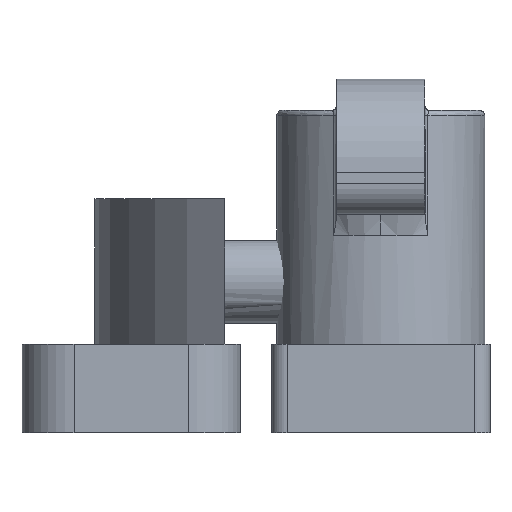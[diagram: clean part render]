
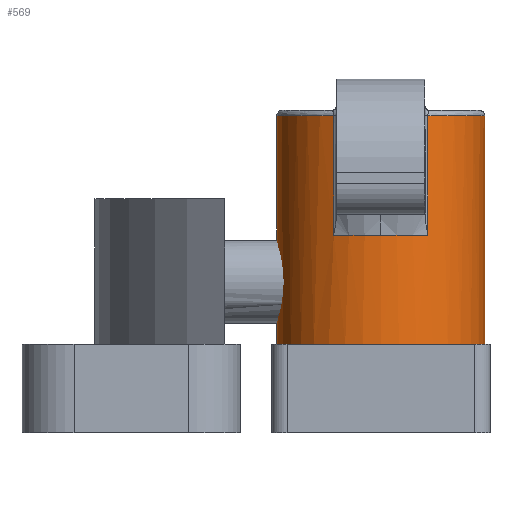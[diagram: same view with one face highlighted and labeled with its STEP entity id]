
A CAD part, front view. The second image highlights one B-rep face of the part: STEP entity #569.
In plain terms, the highlighted cylindrical face has radius 10 mm (diameter 20 mm), a partial arc.
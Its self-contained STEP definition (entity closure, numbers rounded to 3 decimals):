
#32 = DIRECTION ( 'NONE',  ( -1., 0., 0. ) ) ;
#34 = CARTESIAN_POINT ( 'NONE',  ( 29.976, 18.582, 30.5 ) ) ;
#69 = ORIENTED_EDGE ( 'NONE', *, *, #1895, .T. ) ;
#99 = DIRECTION ( 'NONE',  ( -1., 0., 0. ) ) ;
#176 = VECTOR ( 'NONE', #1154, 1000. ) ;
#188 = DIRECTION ( 'NONE',  ( 0., 0., -1. ) ) ;
#190 = ORIENTED_EDGE ( 'NONE', *, *, #2042, .F. ) ;
#253 = CARTESIAN_POINT ( 'NONE',  ( 24.5, 27.5, 30.5 ) ) ;
#302 = VERTEX_POINT ( 'NONE', #3446 ) ;
#333 = AXIS2_PLACEMENT_3D ( 'NONE', #360, #1404, #99 ) ;
#346 = LINE ( 'NONE', #1774, #1555 ) ;
#360 = CARTESIAN_POINT ( 'NONE',  ( 34.5, 27.5, 19. ) ) ;
#569 = ADVANCED_FACE ( 'NONE', ( #1782 ), #3215, .T. ) ;
#590 = DIRECTION ( 'NONE',  ( 0., 0., -1. ) ) ;
#612 = CARTESIAN_POINT ( 'NONE',  ( 44.5, 27.5, 8.5 ) ) ;
#717 = VERTEX_POINT ( 'NONE', #2800 ) ;
#723 = CARTESIAN_POINT ( 'NONE',  ( 24.5, 27.5, 31. ) ) ;
#756 = VERTEX_POINT ( 'NONE', #2593 ) ;
#945 = VERTEX_POINT ( 'NONE', #2172 ) ;
#997 = VECTOR ( 'NONE', #1939, 1000. ) ;
#1018 = EDGE_CURVE ( 'NONE', #1302, #717, #1347, .T. ) ;
#1032 = DIRECTION ( 'NONE',  ( 0., 0., -1. ) ) ;
#1110 = ORIENTED_EDGE ( 'NONE', *, *, #2126, .T. ) ;
#1117 = DIRECTION ( 'NONE',  ( 0., 0., -1. ) ) ;
#1131 = DIRECTION ( 'NONE',  ( -1., 0., 0. ) ) ;
#1139 = ORIENTED_EDGE ( 'NONE', *, *, #2582, .T. ) ;
#1141 = EDGE_CURVE ( 'NONE', #302, #2469, #2073, .T. ) ;
#1144 = CARTESIAN_POINT ( 'NONE',  ( 34.5, 27.5, 31. ) ) ;
#1152 = DIRECTION ( 'NONE',  ( 0., 0., -1. ) ) ;
#1154 = DIRECTION ( 'NONE',  ( 0., 0., -1. ) ) ;
#1188 = ORIENTED_EDGE ( 'NONE', *, *, #1141, .T. ) ;
#1219 = CIRCLE ( 'NONE', #333, 10. ) ;
#1302 = VERTEX_POINT ( 'NONE', #2315 ) ;
#1347 = CIRCLE ( 'NONE', #2507, 10. ) ;
#1404 = DIRECTION ( 'NONE',  ( 0., 0., -1. ) ) ;
#1487 = EDGE_CURVE ( 'NONE', #2469, #2264, #2008, .T. ) ;
#1555 = VECTOR ( 'NONE', #3384, 1000. ) ;
#1584 = CARTESIAN_POINT ( 'NONE',  ( 34.5, 27.5, 8.5 ) ) ;
#1592 = DIRECTION ( 'NONE',  ( -1., 0., 0. ) ) ;
#1602 = LINE ( 'NONE', #2782, #176 ) ;
#1665 = AXIS2_PLACEMENT_3D ( 'NONE', #2626, #1032, #1592 ) ;
#1774 = CARTESIAN_POINT ( 'NONE',  ( 39.024, 18.582, 31. ) ) ;
#1782 = FACE_OUTER_BOUND ( 'NONE', #2110, .T. ) ;
#1846 = EDGE_CURVE ( 'NONE', #756, #1997, #2939, .T. ) ;
#1876 = CARTESIAN_POINT ( 'NONE',  ( 34.5, 27.5, 30.5 ) ) ;
#1895 = EDGE_CURVE ( 'NONE', #717, #3280, #346, .T. ) ;
#1939 = DIRECTION ( 'NONE',  ( 0., 0., 1. ) ) ;
#1997 = VERTEX_POINT ( 'NONE', #612 ) ;
#2008 = CIRCLE ( 'NONE', #2167, 10. ) ;
#2042 = EDGE_CURVE ( 'NONE', #1302, #1997, #1602, .T. ) ;
#2073 = LINE ( 'NONE', #2187, #997 ) ;
#2108 = DIRECTION ( 'NONE',  ( 0., 0., 1. ) ) ;
#2110 = EDGE_LOOP ( 'NONE', ( #190, #2805, #69, #3417, #1139, #1188, #2221, #1110, #3222 ) ) ;
#2114 = AXIS2_PLACEMENT_3D ( 'NONE', #1144, #590, #1131 ) ;
#2126 = EDGE_CURVE ( 'NONE', #2264, #756, #3188, .T. ) ;
#2167 = AXIS2_PLACEMENT_3D ( 'NONE', #1876, #1117, #32 ) ;
#2172 = CARTESIAN_POINT ( 'NONE',  ( 34.5, 17.5, 19. ) ) ;
#2187 = CARTESIAN_POINT ( 'NONE',  ( 29.976, 18.582, 31. ) ) ;
#2221 = ORIENTED_EDGE ( 'NONE', *, *, #1487, .T. ) ;
#2231 = EDGE_CURVE ( 'NONE', #3280, #945, #2728, .T. ) ;
#2256 = AXIS2_PLACEMENT_3D ( 'NONE', #1584, #2108, #2693 ) ;
#2264 = VERTEX_POINT ( 'NONE', #253 ) ;
#2315 = CARTESIAN_POINT ( 'NONE',  ( 44.5, 27.5, 30.5 ) ) ;
#2469 = VERTEX_POINT ( 'NONE', #34 ) ;
#2507 = AXIS2_PLACEMENT_3D ( 'NONE', #2752, #1152, #2726 ) ;
#2582 = EDGE_CURVE ( 'NONE', #945, #302, #1219, .T. ) ;
#2593 = CARTESIAN_POINT ( 'NONE',  ( 24.5, 27.5, 8.5 ) ) ;
#2626 = CARTESIAN_POINT ( 'NONE',  ( 34.5, 27.5, 19. ) ) ;
#2680 = VECTOR ( 'NONE', #188, 1000. ) ;
#2693 = DIRECTION ( 'NONE',  ( -1., 0., 0. ) ) ;
#2726 = DIRECTION ( 'NONE',  ( -1., 0., 0. ) ) ;
#2728 = CIRCLE ( 'NONE', #1665, 10. ) ;
#2752 = CARTESIAN_POINT ( 'NONE',  ( 34.5, 27.5, 30.5 ) ) ;
#2782 = CARTESIAN_POINT ( 'NONE',  ( 44.5, 27.5, 31. ) ) ;
#2800 = CARTESIAN_POINT ( 'NONE',  ( 39.024, 18.582, 30.5 ) ) ;
#2805 = ORIENTED_EDGE ( 'NONE', *, *, #1018, .T. ) ;
#2939 = CIRCLE ( 'NONE', #2256, 10. ) ;
#3065 = CARTESIAN_POINT ( 'NONE',  ( 39.024, 18.582, 19. ) ) ;
#3188 = LINE ( 'NONE', #723, #2680 ) ;
#3215 = CYLINDRICAL_SURFACE ( 'NONE', #2114, 10. ) ;
#3222 = ORIENTED_EDGE ( 'NONE', *, *, #1846, .T. ) ;
#3280 = VERTEX_POINT ( 'NONE', #3065 ) ;
#3384 = DIRECTION ( 'NONE',  ( 0., 0., -1. ) ) ;
#3417 = ORIENTED_EDGE ( 'NONE', *, *, #2231, .T. ) ;
#3446 = CARTESIAN_POINT ( 'NONE',  ( 29.976, 18.582, 19. ) ) ;
